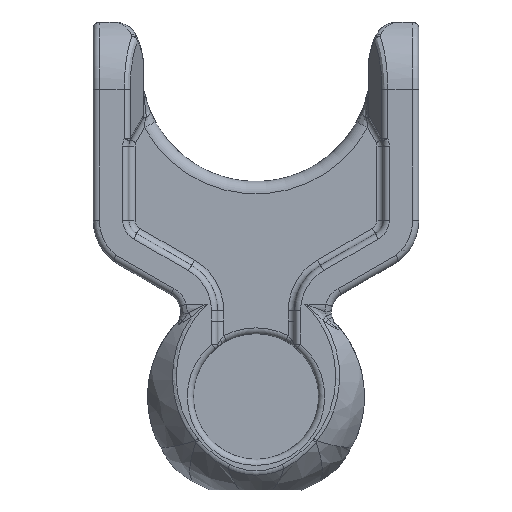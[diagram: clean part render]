
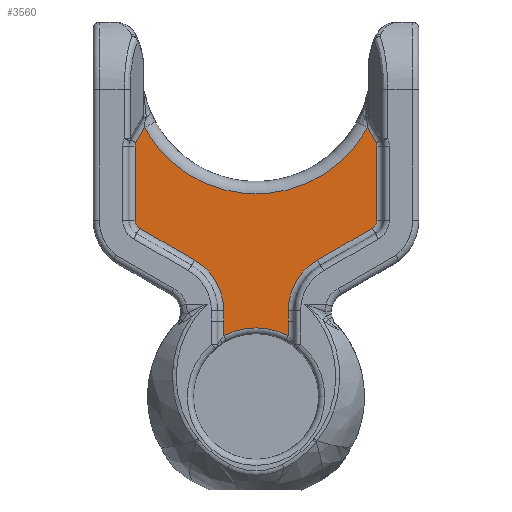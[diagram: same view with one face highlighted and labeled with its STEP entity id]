
A CAD part, front view. The second image highlights one B-rep face of the part: STEP entity #3560.
In plain terms, the highlighted planar face has unit normal (0, -1, 0).
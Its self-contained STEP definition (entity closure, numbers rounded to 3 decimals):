
#93=PLANE('',#3936);
#208=LINE('',#6626,#356);
#211=LINE('',#6634,#359);
#259=LINE('',#8057,#407);
#260=LINE('',#8061,#408);
#261=LINE('',#8065,#409);
#262=LINE('',#8069,#410);
#263=LINE('',#8073,#411);
#264=LINE('',#8077,#412);
#265=LINE('',#8081,#413);
#266=LINE('',#8084,#414);
#356=VECTOR('',#4388,10.);
#359=VECTOR('',#4397,10.);
#407=VECTOR('',#4723,1000.);
#408=VECTOR('',#4726,1000.);
#409=VECTOR('',#4729,1000.);
#410=VECTOR('',#4732,1000.);
#411=VECTOR('',#4735,1000.);
#412=VECTOR('',#4738,1000.);
#413=VECTOR('',#4741,1000.);
#414=VECTOR('',#4744,1000.);
#667=FACE_OUTER_BOUND('',#897,.T.);
#897=EDGE_LOOP('',(#2975,#2976,#2977,#2978,#2979,#2980,#2981,#2982,#2983,
#2984,#2985,#2986,#2987,#2988,#2989,#2990,#2991,#2992));
#1158=CIRCLE('',#3684,11.2);
#1297=CIRCLE('',#3937,9.5);
#1298=CIRCLE('',#3938,1.5);
#1299=CIRCLE('',#3939,1.);
#1300=CIRCLE('',#3940,20.663);
#1301=CIRCLE('',#3941,1.);
#1302=CIRCLE('',#3942,1.5);
#1303=CIRCLE('',#3943,9.5);
#1376=VERTEX_POINT('',#5138);
#1385=VERTEX_POINT('',#5230);
#1526=VERTEX_POINT('',#6625);
#1528=VERTEX_POINT('',#6632);
#1623=VERTEX_POINT('',#8056);
#1624=VERTEX_POINT('',#8058);
#1625=VERTEX_POINT('',#8060);
#1626=VERTEX_POINT('',#8062);
#1627=VERTEX_POINT('',#8064);
#1628=VERTEX_POINT('',#8066);
#1629=VERTEX_POINT('',#8068);
#1630=VERTEX_POINT('',#8070);
#1631=VERTEX_POINT('',#8072);
#1632=VERTEX_POINT('',#8074);
#1633=VERTEX_POINT('',#8076);
#1634=VERTEX_POINT('',#8078);
#1635=VERTEX_POINT('',#8080);
#1636=VERTEX_POINT('',#8082);
#1725=EDGE_CURVE('',#1376,#1385,#1158,.T.);
#1923=EDGE_CURVE('',#1385,#1526,#208,.T.);
#1928=EDGE_CURVE('',#1528,#1376,#211,.T.);
#2099=EDGE_CURVE('',#1528,#1623,#259,.T.);
#2100=EDGE_CURVE('',#1623,#1624,#1297,.T.);
#2101=EDGE_CURVE('',#1624,#1625,#260,.T.);
#2102=EDGE_CURVE('',#1625,#1626,#1298,.T.);
#2103=EDGE_CURVE('',#1626,#1627,#261,.T.);
#2104=EDGE_CURVE('',#1627,#1628,#1299,.T.);
#2105=EDGE_CURVE('',#1628,#1629,#262,.T.);
#2106=EDGE_CURVE('',#1629,#1630,#1300,.T.);
#2107=EDGE_CURVE('',#1630,#1631,#263,.T.);
#2108=EDGE_CURVE('',#1631,#1632,#1301,.T.);
#2109=EDGE_CURVE('',#1632,#1633,#264,.T.);
#2110=EDGE_CURVE('',#1633,#1634,#1302,.T.);
#2111=EDGE_CURVE('',#1634,#1635,#265,.T.);
#2112=EDGE_CURVE('',#1635,#1636,#1303,.T.);
#2113=EDGE_CURVE('',#1636,#1526,#266,.T.);
#2975=ORIENTED_EDGE('',*,*,#1725,.F.);
#2976=ORIENTED_EDGE('',*,*,#1928,.F.);
#2977=ORIENTED_EDGE('',*,*,#2099,.T.);
#2978=ORIENTED_EDGE('',*,*,#2100,.T.);
#2979=ORIENTED_EDGE('',*,*,#2101,.T.);
#2980=ORIENTED_EDGE('',*,*,#2102,.T.);
#2981=ORIENTED_EDGE('',*,*,#2103,.T.);
#2982=ORIENTED_EDGE('',*,*,#2104,.T.);
#2983=ORIENTED_EDGE('',*,*,#2105,.T.);
#2984=ORIENTED_EDGE('',*,*,#2106,.T.);
#2985=ORIENTED_EDGE('',*,*,#2107,.T.);
#2986=ORIENTED_EDGE('',*,*,#2108,.T.);
#2987=ORIENTED_EDGE('',*,*,#2109,.T.);
#2988=ORIENTED_EDGE('',*,*,#2110,.T.);
#2989=ORIENTED_EDGE('',*,*,#2111,.T.);
#2990=ORIENTED_EDGE('',*,*,#2112,.T.);
#2991=ORIENTED_EDGE('',*,*,#2113,.T.);
#2992=ORIENTED_EDGE('',*,*,#1923,.F.);
#3560=ADVANCED_FACE('',(#667),#93,.F.);
#3684=AXIS2_PLACEMENT_3D('',#5238,#4114,#4115);
#3936=AXIS2_PLACEMENT_3D('',#8055,#4721,#4722);
#3937=AXIS2_PLACEMENT_3D('',#8059,#4724,#4725);
#3938=AXIS2_PLACEMENT_3D('',#8063,#4727,#4728);
#3939=AXIS2_PLACEMENT_3D('',#8067,#4730,#4731);
#3940=AXIS2_PLACEMENT_3D('',#8071,#4733,#4734);
#3941=AXIS2_PLACEMENT_3D('',#8075,#4736,#4737);
#3942=AXIS2_PLACEMENT_3D('',#8079,#4739,#4740);
#3943=AXIS2_PLACEMENT_3D('',#8083,#4742,#4743);
#4114=DIRECTION('center_axis',(0.,-1.,0.));
#4115=DIRECTION('ref_axis',(0.,0.,1.));
#4388=DIRECTION('',(0.,0.,1.));
#4397=DIRECTION('',(0.,0.,-1.));
#4721=DIRECTION('center_axis',(0.,1.,0.));
#4722=DIRECTION('ref_axis',(0.,0.,1.));
#4723=DIRECTION('',(0.,0.,1.));
#4724=DIRECTION('center_axis',(0.,1.,0.));
#4725=DIRECTION('ref_axis',(0.,0.,1.));
#4726=DIRECTION('',(0.866,0.,0.5));
#4727=DIRECTION('center_axis',(0.,-1.,0.));
#4728=DIRECTION('ref_axis',(0.,0.,1.));
#4729=DIRECTION('',(0.,0.,1.));
#4730=DIRECTION('center_axis',(0.,-1.,0.));
#4731=DIRECTION('ref_axis',(0.,0.,1.));
#4732=DIRECTION('',(-0.5,0.,0.866));
#4733=DIRECTION('center_axis',(0.,1.,0.));
#4734=DIRECTION('ref_axis',(0.,0.,1.));
#4735=DIRECTION('',(-0.5,0.,-0.866));
#4736=DIRECTION('center_axis',(0.,-1.,0.));
#4737=DIRECTION('ref_axis',(0.,0.,1.));
#4738=DIRECTION('',(0.,0.,-1.));
#4739=DIRECTION('center_axis',(0.,-1.,0.));
#4740=DIRECTION('ref_axis',(0.,0.,1.));
#4741=DIRECTION('',(0.866,0.,-0.5));
#4742=DIRECTION('center_axis',(0.,1.,0.));
#4743=DIRECTION('ref_axis',(0.,0.,1.));
#4744=DIRECTION('',(0.,0.,-1.));
#5138=CARTESIAN_POINT('',(-2.482,8.62,-13.478));
#5230=CARTESIAN_POINT('',(-12.982,8.62,-13.478));
#5238=CARTESIAN_POINT('Origin',(-7.732,8.62,-23.372));
#6625=CARTESIAN_POINT('',(-12.982,8.62,-11.072));
#6626=CARTESIAN_POINT('',(-12.982,8.62,-20.297));
#6632=CARTESIAN_POINT('',(-2.482,8.62,-11.072));
#6634=CARTESIAN_POINT('',(-2.482,8.62,-14.147));
#8055=CARTESIAN_POINT('Origin',(-25.932,8.62,5.34));
#8056=CARTESIAN_POINT('',(-2.482,8.62,-9.354));
#8057=CARTESIAN_POINT('',(-2.482,8.62,-9.354));
#8058=CARTESIAN_POINT('',(2.268,8.62,-1.127));
#8059=CARTESIAN_POINT('Origin',(7.018,8.62,-9.354));
#8060=CARTESIAN_POINT('',(11.218,8.62,4.041));
#8061=CARTESIAN_POINT('',(11.218,8.62,4.041));
#8062=CARTESIAN_POINT('',(11.968,8.62,5.34));
#8063=CARTESIAN_POINT('Origin',(10.468,8.62,5.34));
#8064=CARTESIAN_POINT('',(11.968,8.62,17.436));
#8065=CARTESIAN_POINT('',(11.968,8.62,17.436));
#8066=CARTESIAN_POINT('',(11.834,8.62,17.936));
#8067=CARTESIAN_POINT('Origin',(10.968,8.62,17.436));
#8068=CARTESIAN_POINT('',(10.41,8.62,20.401));
#8069=CARTESIAN_POINT('',(9.702,8.62,21.628));
#8070=CARTESIAN_POINT('',(-25.874,8.62,20.401));
#8071=CARTESIAN_POINT('Origin',(-7.732,8.62,30.291));
#8072=CARTESIAN_POINT('',(-27.298,8.62,17.936));
#8073=CARTESIAN_POINT('',(-27.298,8.62,17.936));
#8074=CARTESIAN_POINT('',(-27.432,8.62,17.436));
#8075=CARTESIAN_POINT('Origin',(-26.432,8.62,17.436));
#8076=CARTESIAN_POINT('',(-27.432,8.62,5.34));
#8077=CARTESIAN_POINT('',(-27.432,8.62,5.34));
#8078=CARTESIAN_POINT('',(-26.682,8.62,4.041));
#8079=CARTESIAN_POINT('Origin',(-25.932,8.62,5.34));
#8080=CARTESIAN_POINT('',(-17.732,8.62,-1.127));
#8081=CARTESIAN_POINT('',(-17.732,8.62,-1.127));
#8082=CARTESIAN_POINT('',(-12.982,8.62,-9.354));
#8083=CARTESIAN_POINT('Origin',(-22.482,8.62,-9.354));
#8084=CARTESIAN_POINT('',(-12.982,8.62,-14.835));
